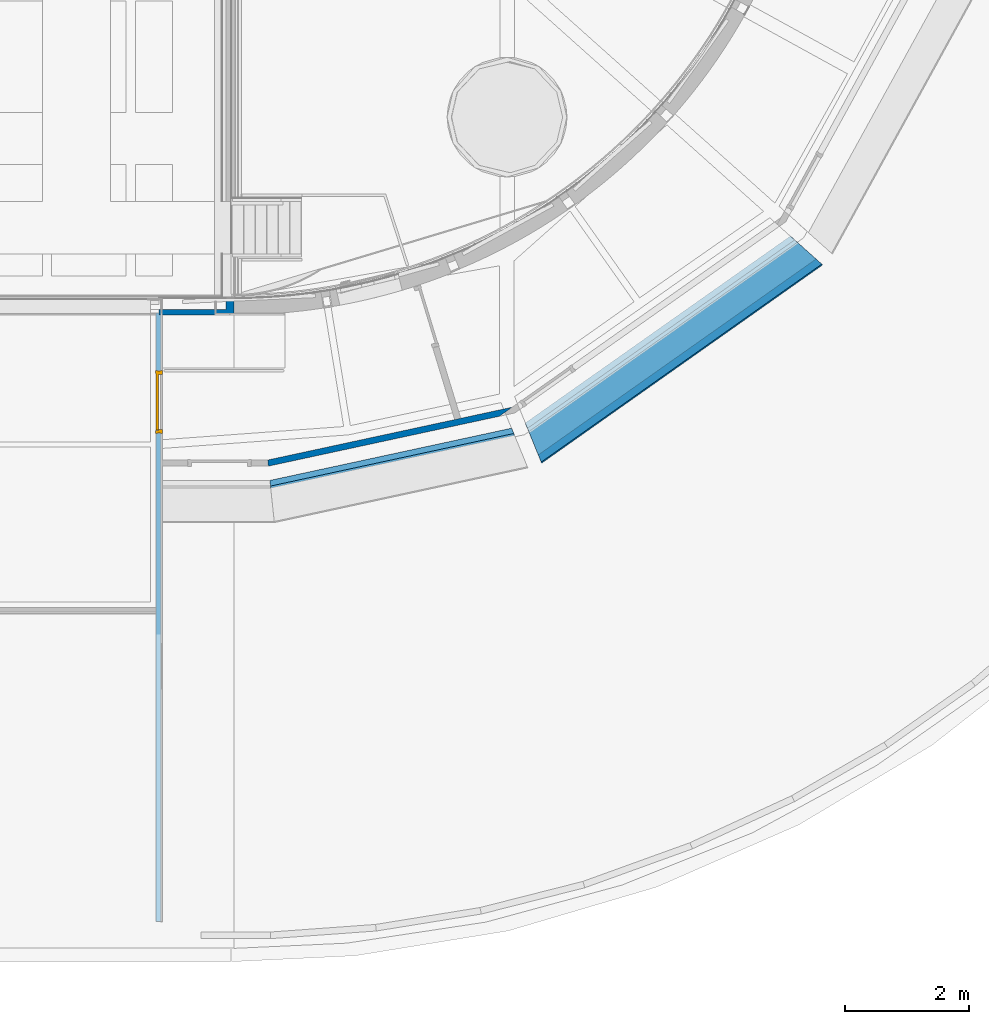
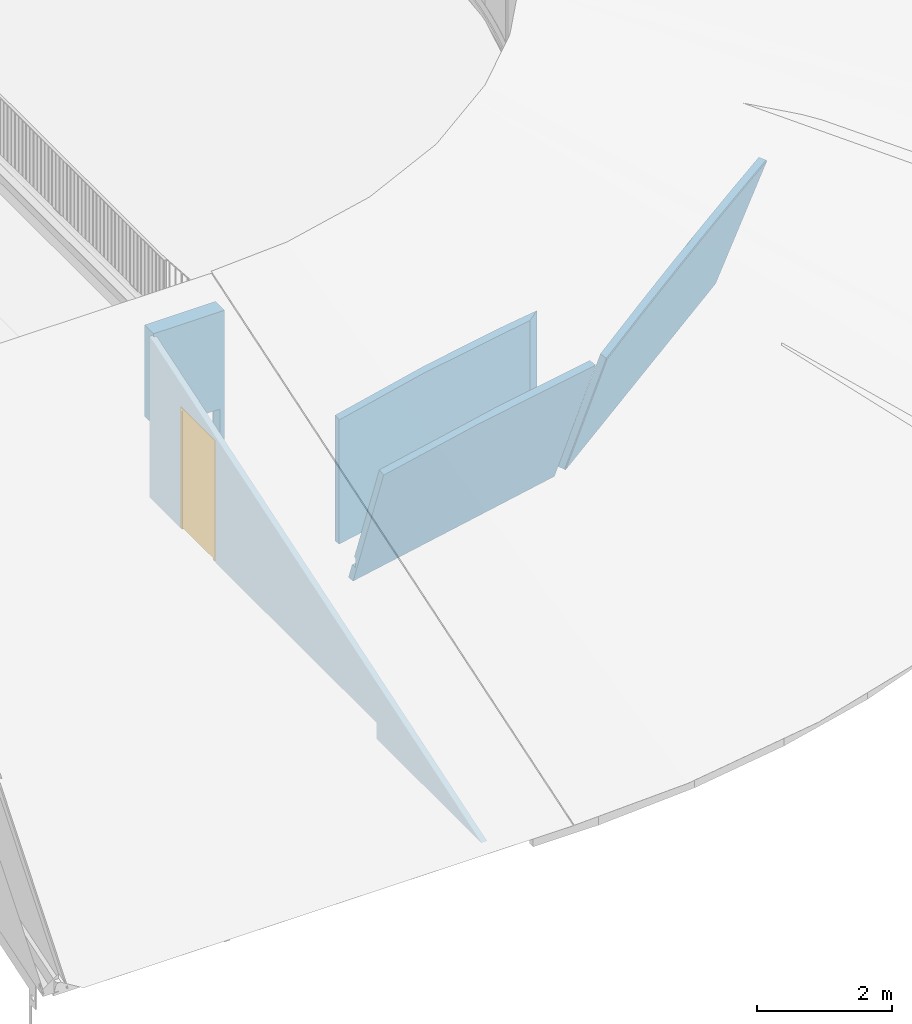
# One storey, part 49 of 66: 5 walls, 1 door, 2 openings, plus 1 element that does not belong to this part.
"""IFC2X3 building model written with IfcOpenShell, lengths in millimetres."""

import ifcopenshell
import ifcopenshell.guid

model = None  # the IFC model being written
_history = None  # IfcOwnerHistory: only IFC2X3 demands one
_inside = {}  # id of a spatial element -> (the spatial element, [elements in it])
_under = {}  # id of a project, library or spatial element -> (it, [spatial elements below it])
_declared = {}  # id of a project -> (the project, [libraries it declares])
_typed = {}  # id of a type object -> (the type object, [elements of that type])
_made_of = {}  # id of a material, layer set ... -> (it, [elements and type objects made of it])


def new_model(schema):
    """Start an empty IFC model of exactly this schema.

    Asked for "IFC4X3", IfcOpenShell would pick the latest addendum, in which some entities
    have other attributes; the version numbers below select the first issue.
    IFC2X3 requires an IfcOwnerHistory on every rooted entity: one is made here for all.
    """
    global model, _history
    if schema == "IFC4X3":
        model = ifcopenshell.file(schema_version=(4, 3, 0, 0))
    else:
        model = ifcopenshell.file(schema=schema)
    _inside.clear()
    _under.clear()
    _declared.clear()
    _typed.clear()
    _made_of.clear()
    _history = None
    if model.schema == "IFC2X3":
        org = make("IfcOrganization", Name="unknown")
        user = make(
            "IfcPersonAndOrganization",
            ThePerson=make("IfcPerson", FamilyName="unknown"),
            TheOrganization=org,
        )
        app = make(
            "IfcApplication",
            ApplicationDeveloper=org,
            Version="unknown",
            ApplicationFullName="unknown",
            ApplicationIdentifier="unknown",
        )
        _history = make(
            "IfcOwnerHistory",
            OwningUser=user,
            OwningApplication=app,
            ChangeAction="ADDED",
            CreationDate=0,
        )
    return model


def make(cls, **values):
    """One entity of the class cls with the attributes given. An attribute that is None is left unset."""
    return model.create_entity(
        cls, **{name: value for name, value in values.items() if value is not None}
    )


def entity(cls, *values):
    """Any entity or typed value of the class cls, its attributes in the order of the schema. None: left unset."""
    e = model.create_entity(cls)
    for i, value in enumerate(values):
        if value is not None:
            e[i] = value
    return e


def rooted(cls, **values):
    """An entity with a GlobalId (a new one), such as an element, a storey or a relation."""
    return make(cls, GlobalId=ifcopenshell.guid.new(), OwnerHistory=_history, **values)


def si_unit(unit_type, name, prefix=None):
    """IfcSIUnit, for example si_unit("LENGTHUNIT", "METRE", prefix="MILLI")."""
    return make("IfcSIUnit", UnitType=unit_type, Prefix=prefix, Name=name)


def converted_unit(unit_type, name, factor, base, dimensions=None, offset=None):
    """IfcConversionBasedUnit, such as the inch: factor (a typed value) times the base unit."""
    return make(
        "IfcConversionBasedUnit"
        if offset is None
        else "IfcConversionBasedUnitWithOffset",
        ConversionOffset=offset,
        Dimensions=None
        if dimensions is None
        else entity("IfcDimensionalExponents", *dimensions),
        UnitType=unit_type,
        Name=name,
        ConversionFactor=make(
            "IfcMeasureWithUnit", ValueComponent=factor, UnitComponent=base
        ),
    )


def derived_unit(unit_type, elements):
    """IfcDerivedUnit: a product of units, each with its exponent."""
    return make(
        "IfcDerivedUnit",
        Elements=[
            make("IfcDerivedUnitElement", Unit=unit, Exponent=power)
            for unit, power in elements
        ],
        UnitType=unit_type,
    )


def assignment(units):
    """IfcUnitAssignment: the units of a project."""
    return None if units is None else make("IfcUnitAssignment", Units=units)


def point(xyz):
    """IfcCartesianPoint."""
    return None if xyz is None else make("IfcCartesianPoint", Coordinates=xyz)


def direction(xyz):
    """IfcDirection."""
    return None if xyz is None else make("IfcDirection", DirectionRatios=xyz)


def frame(location, z_axis=None, x_axis=None):
    """IfcAxis2Placement3D, a coordinate frame: its origin and axes. An axis left out is left unset."""
    return make(
        "IfcAxis2Placement3D",
        Location=point(location),
        Axis=direction(z_axis),
        RefDirection=direction(x_axis),
    )


def frame_2d(location, x_axis=None):
    """IfcAxis2Placement2D, a coordinate frame in the plane: its origin and x axis."""
    return make(
        "IfcAxis2Placement2D", Location=point(location), RefDirection=direction(x_axis)
    )


def origin():
    """The frame at (0, 0, 0) with its axes left unset."""
    return frame((0.0, 0.0, 0.0))


def place(relative_to, where):
    """IfcLocalPlacement: puts the frame where relative to a parent placement (None: the world)."""
    return make(
        "IfcLocalPlacement", PlacementRelTo=relative_to, RelativePlacement=where
    )


def context(
    kind, dimensions, precision=None, world=None, true_north=None, identifier=None
):
    """IfcGeometricRepresentationContext, for example the 3D "Model" context."""
    return make(
        "IfcGeometricRepresentationContext",
        ContextIdentifier=identifier,
        ContextType=kind,
        CoordinateSpaceDimension=dimensions,
        Precision=precision,
        WorldCoordinateSystem=world,
        TrueNorth=true_north,
    )


def subcontext(parent, identifier, kind, view, scale=None):
    """IfcGeometricRepresentationSubContext, for example "Body" below "Model"."""
    return make(
        "IfcGeometricRepresentationSubContext",
        ContextIdentifier=identifier,
        ContextType=kind,
        ParentContext=parent,
        TargetScale=scale,
        TargetView=view,
    )


def project(units=None, contexts=None):
    """IfcProject with its units and contexts."""
    return rooted(
        "IfcProject",
        Name="project",
        RepresentationContexts=contexts,
        UnitsInContext=assignment(units),
    )


def spatial(cls, under=None, at=None, **own):
    """A site, building, storey or space (cls), placed at a placement, below another one or the project."""
    s = rooted(cls, ObjectPlacement=at, **own)
    if under is not None:
        _under.setdefault(under.id(), (under, []))[1].append(s)
    return s


def profile(cls, at=None, kind="AREA", **sizes):
    """A parametric profile (cls). Its sizes go by their IFC names, for example OverallWidth=200.0."""
    return make(cls, ProfileType=kind, Position=at, **sizes)


def rectangle(**sizes):
    """IfcRectangleProfileDef."""
    return profile("IfcRectangleProfileDef", **sizes)


def extrude(swept, where, along, depth):
    """IfcExtrudedAreaSolid: the profile swept, set in the frame where, extruded along a direction by depth."""
    return make(
        "IfcExtrudedAreaSolid",
        SweptArea=swept,
        Position=where,
        ExtrudedDirection=direction(along),
        Depth=depth,
    )


def clip(a, b, op="DIFFERENCE"):
    """IfcBooleanClippingResult: the solid a cut by the half space b."""
    return make(
        "IfcBooleanClippingResult", Operator=op, FirstOperand=a, SecondOperand=b
    )


def halfspace(plane, agree):
    """IfcHalfSpaceSolid: all space on one side of the plane z = 0 of the frame plane."""
    return make(
        "IfcHalfSpaceSolid",
        BaseSurface=make("IfcPlane", Position=plane),
        AgreementFlag=agree,
    )


def faces_of(points, faces, orient=None, outer=None):
    """IfcFace entities. A face is a list of loops; a loop is a list of indices into points, from 0.

    orient and outer hold one flag for each loop. By default every Orientation is true, the
    first loop of a face is its IfcFaceOuterBound and the others are IfcFaceBound.
    """
    made = []
    for i, loops in enumerate(faces):
        bounds = []
        for j, loop in enumerate(loops):
            is_outer = j == 0 if outer is None else outer[i][j]
            bounds.append(
                make(
                    "IfcFaceOuterBound" if is_outer else "IfcFaceBound",
                    Bound=make("IfcPolyLoop", Polygon=[points[k] for k in loop]),
                    Orientation=True if orient is None else orient[i][j],
                )
            )
        made.append(make("IfcFace", Bounds=bounds))
    return made


def faceted_brep(points, faces, orient=None, outer=None, voids=None):
    """IfcFacetedBrep: a solid bounded by flat faces; with voids (closed shells), ...WithVoids."""
    shared = [point(p) for p in points]
    hull = make("IfcClosedShell", CfsFaces=faces_of(shared, faces, orient, outer))
    if voids is None:
        return make("IfcFacetedBrep", Outer=hull)
    return make(
        "IfcFacetedBrepWithVoids",
        Outer=hull,
        Voids=[
            make(cls, CfsFaces=faces_of(shared, fs, o, b)) for cls, fs, o, b in voids
        ],
    )


def shape(context_of_items, identifier, shape_type, items):
    """IfcShapeRepresentation: the items that make up one representation, for example the "Body"."""
    return make(
        "IfcShapeRepresentation",
        ContextOfItems=context_of_items,
        RepresentationIdentifier=identifier,
        RepresentationType=shape_type,
        Items=items,
    )


def source(mapping_origin, context_of_items, identifier, shape_type, items):
    """IfcRepresentationMap: a shape defined once, which mapped items show again and again."""
    return make(
        "IfcRepresentationMap",
        MappingOrigin=mapping_origin,
        MappedRepresentation=shape(context_of_items, identifier, shape_type, items),
    )


def transform(
    local_origin,
    x_axis=None,
    y_axis=None,
    z_axis=None,
    scale=None,
    scale2=None,
    scale3=None,
    uniform=True,
):
    """IfcCartesianTransformationOperator3D, or its non-uniform kind. x_axis, y_axis, z_axis: its Axis1, 2, 3."""
    if uniform:
        return make(
            "IfcCartesianTransformationOperator3D",
            Axis1=direction(x_axis),
            Axis2=direction(y_axis),
            LocalOrigin=point(local_origin),
            Scale=scale,
            Axis3=direction(z_axis),
        )
    return make(
        "IfcCartesianTransformationOperator3DnonUniform",
        Axis1=direction(x_axis),
        Axis2=direction(y_axis),
        LocalOrigin=point(local_origin),
        Scale=scale,
        Axis3=direction(z_axis),
        Scale2=scale2,
        Scale3=scale3,
    )


def mapped(mapping_source, mapping_target):
    """IfcMappedItem: shows the shape of a source again, moved by a transform."""
    return make(
        "IfcMappedItem", MappingSource=mapping_source, MappingTarget=mapping_target
    )


def material(Name=None, Category=None):
    """IfcMaterial."""
    return make("IfcMaterial", Name=Name, Category=Category)


def material_list(materials):
    """IfcMaterialList."""
    return make("IfcMaterialList", Materials=materials)


def layer(
    of_material, thickness, ventilated=None, Name=None, Category=None, Priority=None
):
    """IfcMaterialLayer: one layer of a wall or slab, of a material (None: an air gap)."""
    return make(
        "IfcMaterialLayer",
        Material=of_material,
        LayerThickness=thickness,
        IsVentilated=ventilated,
        Name=Name,
        Category=Category,
        Priority=Priority,
    )


def layer_set(layers, Name=None):
    """IfcMaterialLayerSet."""
    return make("IfcMaterialLayerSet", MaterialLayers=layers, LayerSetName=Name)


def layer_usage(for_layer_set, set_direction, sense, offset, extent=None):
    """IfcMaterialLayerSetUsage: how a layer set lies in its element."""
    return make(
        "IfcMaterialLayerSetUsage",
        ForLayerSet=for_layer_set,
        LayerSetDirection=set_direction,
        DirectionSense=sense,
        OffsetFromReferenceLine=offset,
        ReferenceExtent=extent,
    )


def made_of(thing, what):
    """Note that an element or type object is made of a material, layer set ...; save() writes the relation."""
    if what is not None:
        _made_of.setdefault(what.id(), (what, []))[1].append(thing)
    return thing


def type_object(cls, material=None, **own):
    """A type object (cls), such as IfcWallType, which elements share."""
    return made_of(rooted(cls, **own), material)


def type_shapes(of_type, sources):
    """Give a type object the sources (RepresentationMaps) that its elements show as mapped items."""
    of_type.RepresentationMaps = sources


def element(
    cls,
    number,
    at=None,
    inside=None,
    cuts=None,
    type_object=None,
    material=None,
    context=None,
    identifier="Body",
    shape_type=None,
    held_by="IfcProductDefinitionShape",
    body=None,
    shapes=None,
    **own,
):
    """One element of the class cls, such as IfcWall. Its Tag is "e" and its number.

    at: its placement. inside: the storey or other place that contains it. cuts: it is an
    opening in that element (IfcRelVoidsElement). A single representation is given by context,
    identifier, shape_type and body (its items); several are given by shapes. held_by: the class
    of the entity that holds the representations. save() writes the other relations.
    """
    e = rooted(cls, Tag="e%d" % number, ObjectPlacement=at, **own)
    if body is not None:
        shapes = [shape(context, identifier, shape_type, body)]
    if shapes is not None:
        e.Representation = make(held_by, Representations=shapes)
    if inside is not None:
        _inside.setdefault(inside.id(), (inside, []))[1].append(e)
    if cuts is not None:
        rooted(
            "IfcRelVoidsElement", RelatingBuildingElement=cuts, RelatedOpeningElement=e
        )
    if type_object is not None:
        _typed.setdefault(type_object.id(), (type_object, []))[1].append(e)
    return made_of(e, material)


def fill(opening, filler):
    """IfcRelFillsElement: the door or window that sits in an opening."""
    return rooted(
        "IfcRelFillsElement",
        RelatingOpeningElement=opening,
        RelatedBuildingElement=filler,
    )


def aggregate(whole, parts):
    """IfcRelAggregates: a whole, such as a stair, and the parts it consists of."""
    return rooted("IfcRelAggregates", RelatingObject=whole, RelatedObjects=parts)


def save(model, path):
    """Write the relations noted so far, then the file.

    IfcRelAggregates (storeys below a building ...), IfcRelContainedInSpatialStructure (elements
    in a storey), IfcRelDefinesByType, IfcRelAssociatesMaterial and IfcRelDeclares: one each for
    every whole, place, type object, material and project.
    """
    for whole, parts in _under.values():
        aggregate(whole, parts)
    for where, things in _inside.values():
        rooted(
            "IfcRelContainedInSpatialStructure",
            RelatedElements=things,
            RelatingStructure=where,
        )
    for kind, things in _typed.values():
        rooted("IfcRelDefinesByType", RelatedObjects=things, RelatingType=kind)
    for what, things in _made_of.values():
        rooted("IfcRelAssociatesMaterial", RelatedObjects=things, RelatingMaterial=what)
    for by, libraries in _declared.values():
        rooted("IfcRelDeclares", RelatingContext=by, RelatedDefinitions=libraries)
    model.write(path)


model = new_model("IFC2X3")

# Units and contexts
model_context = context("Model", 3, precision=0.01, world=origin(), true_north=direction((6.12303176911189e-17, 1.0)))
body_context = subcontext(model_context, "Body", "Model", "MODEL_VIEW")
ifc_project = project(units=[si_unit("LENGTHUNIT", "METRE", prefix="MILLI"), si_unit("AREAUNIT", "SQUARE_METRE"), si_unit("VOLUMEUNIT", "CUBIC_METRE"), converted_unit("PLANEANGLEUNIT", "DEGREE", entity("IfcRatioMeasure", 0.0174532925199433), si_unit("PLANEANGLEUNIT", "RADIAN"), dimensions=[0, 0, 0, 0, 0, 0, 0]), si_unit("MASSUNIT", "GRAM", prefix="KILO"), derived_unit("MASSDENSITYUNIT", [(si_unit("MASSUNIT", "GRAM", prefix="KILO"), 1), (si_unit("LENGTHUNIT", "METRE"), -3)]), derived_unit("MOMENTOFINERTIAUNIT", [(si_unit("LENGTHUNIT", "METRE"), 4)]), si_unit("TIMEUNIT", "SECOND"), si_unit("FREQUENCYUNIT", "HERTZ"), si_unit("THERMODYNAMICTEMPERATUREUNIT", "DEGREE_CELSIUS"), derived_unit("THERMALTRANSMITTANCEUNIT", [(si_unit("MASSUNIT", "GRAM", prefix="KILO"), 1), (si_unit("THERMODYNAMICTEMPERATUREUNIT", "KELVIN"), -1), (si_unit("TIMEUNIT", "SECOND"), -3)]), derived_unit("VOLUMETRICFLOWRATEUNIT", [(si_unit("LENGTHUNIT", "METRE"), 3), (si_unit("TIMEUNIT", "SECOND"), -1)]), si_unit("ELECTRICCURRENTUNIT", "AMPERE"), si_unit("ELECTRICVOLTAGEUNIT", "VOLT"), si_unit("POWERUNIT", "WATT"), si_unit("FORCEUNIT", "NEWTON", prefix="KILO"), si_unit("ILLUMINANCEUNIT", "LUX"), si_unit("LUMINOUSFLUXUNIT", "LUMEN"), si_unit("LUMINOUSINTENSITYUNIT", "CANDELA"), derived_unit("USERDEFINED", [(si_unit("MASSUNIT", "GRAM", prefix="KILO"), -1), (si_unit("LENGTHUNIT", "METRE"), -2), (si_unit("TIMEUNIT", "SECOND"), 3), (si_unit("LUMINOUSFLUXUNIT", "LUMEN"), 1)]), derived_unit("LINEARVELOCITYUNIT", [(si_unit("LENGTHUNIT", "METRE"), 1), (si_unit("TIMEUNIT", "SECOND"), -1)]), si_unit("PRESSUREUNIT", "PASCAL"), derived_unit("USERDEFINED", [(si_unit("LENGTHUNIT", "METRE"), -2), (si_unit("MASSUNIT", "GRAM", prefix="KILO"), 1), (si_unit("TIMEUNIT", "SECOND"), -2)]), derived_unit("LINEARFORCEUNIT", [(si_unit("MASSUNIT", "GRAM", prefix="KILO"), 1), (si_unit("LENGTHUNIT", "METRE"), 1), (si_unit("TIMEUNIT", "SECOND"), -2), (si_unit("LENGTHUNIT", "METRE"), -1)]), derived_unit("PLANARFORCEUNIT", [(si_unit("MASSUNIT", "GRAM", prefix="KILO"), 1), (si_unit("LENGTHUNIT", "METRE"), 1), (si_unit("TIMEUNIT", "SECOND"), -2), (si_unit("LENGTHUNIT", "METRE"), -2)])], contexts=[model_context])

# Site, building, storey
site_placement = place(None, origin())
site = spatial("IfcSite", under=ifc_project, at=site_placement, Name="Default", CompositionType="ELEMENT")
building_placement = place(site_placement, origin())
building = spatial("IfcBuilding", under=site, at=building_placement, Name="-", CompositionType="ELEMENT")
storey_placement = place(building_placement, frame((0.0, 0.0, 3070.0)))
storey = spatial("IfcBuildingStorey", under=building, at=storey_placement, Name="01 eerste verdieping", CompositionType="ELEMENT", Elevation=3070.00000000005)

# Wall, openings, door
ifc_material_1 = material(Name="NLRS_f7_gipsplaat_gen")
ifc_layer_1 = layer(ifc_material_1, 12.5)
ifc_material_2 = material(Name="NLRS_m1_isolatie")
ifc_layer_2 = layer(ifc_material_2, 75.0)
ifc_layer_3 = layer(ifc_material_1, 12.5)
ifc_layer_set_1 = layer_set([ifc_layer_1, ifc_layer_2, ifc_layer_3], Name="Basic Wall:NLRS_21_WA_Metalstud 100mm")
ifc_layer_usage = layer_usage(ifc_layer_set_1, "AXIS2", "NEGATIVE", 50.0)
wall_type_1 = type_object("IfcWallType", Name="Basic Wall:NLRS_21_WA_Metalstud 100mm", PredefinedType="STANDARD", material=ifc_layer_set_1)
wall_1_placement = place(storey_placement, frame((49431.6203901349, 10179.532207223, -207.999811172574), z_axis=(0.0, 0.0, 1.0), x_axis=(0.0, -1.0, 0.0)))
wall_1 = element("IfcWallStandardCase", 1, at=wall_1_placement, inside=storey, type_object=wall_type_1, material=ifc_layer_usage, Name="Basic Wall:NLRS_21_WA_Metalstud 100mm", ObjectType="Basic Wall:NLRS_21_WA_Metalstud 100mm", context=body_context, shape_type="Clipping", body=[
    clip(extrude(rectangle(XDim=9837.42549744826, YDim=99.9999999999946, at=frame_2d((4918.71274872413, -8.5265128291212e-13), x_axis=(-1.0, 0.0))), origin(), (0.0, 0.0, 1.0), 3201.4676916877), halfspace(frame((0.0, -50.0, 3201.4676916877), z_axis=(0.3094623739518, 0.0, 0.950911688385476), x_axis=(0.0, 1.0, 0.0)), False)),
])
opening_1_placement = place(wall_1_placement, origin())
element("IfcOpeningElement", 2, at=opening_1_placement, cuts=wall_1, Name="Basic Wall:NLRS_21_WA_Metalstud 100mm", ObjectType="Opening", context=body_context, shape_type="SweptSolid", body=[
    extrude(rectangle(XDim=289.999811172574, YDim=6723.77109091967, at=frame_2d((-2.70006239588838e-13, 6.82121026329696e-13), x_axis=(1.0, 0.0))), frame((3361.88554545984, 50.0, 144.999905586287), z_axis=(0.0, -1.0, 0.0), x_axis=(0.0, 0.0, 1.0)), (0.0, 0.0, 1.0), 100.0),
])
opening_2_placement = place(wall_1_placement, frame((1948.44304372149, 50.0, 257.999811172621)))
opening_2 = element("IfcOpeningElement", 3, at=opening_2_placement, cuts=wall_1, Name="AL_32.i_Binnenkozijn-enkeledeur_Rechtsdraaiend:Merk a (2100mm hoog) brandwerend:1", ObjectType="Opening", context=body_context, shape_type="SweptSolid", body=[
    extrude(rectangle(XDim=2242.00000000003, YDim=1017.99999999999, at=frame_2d((1121.00000000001, 508.999999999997), x_axis=(1.0, 0.0))), frame((0.0, 0.0, 0.0), z_axis=(0.0, -1.0, 0.0), x_axis=(0.0, 0.0, 1.0)), (0.0, 0.0, 1.0), 100.0),
])
ifc_material_3 = material(Name="NLRS_i3_hout_Loofhout (hardhout) RAL 9002")
ifc_material_4 = material(Name="<Unnamed>")
ifc_material_5 = material(Name="31_Glas")
ifc_material_list = material_list([ifc_material_4, ifc_material_4, ifc_material_5, ifc_material_3])
door_style = type_object("IfcDoorStyle", Name="AL_32.i_Binnenkozijn-enkeledeur_Rechtsdraaiend:Merk a (2100mm hoog) brandwerend", ConstructionType="NOTDEFINED", OperationType="SINGLE_SWING_LEFT", ParameterTakesPrecedence=False, Sizeable=False, material=ifc_material_list)
shared_shape = source(origin(), body_context, "Body", "Brep", [
    faceted_brep([(52.0, 40.0, 75.0), (52.0, 40.0, 2190.0), (966.0, 40.0, 2190.0), (966.0, 40.0, 75.0), (966.0, 0.0, 75.0), (52.0, 0.0, 75.0), (966.0, 0.0, 2190.0), (52.0, 0.0, 2190.0)], [[[0, 1, 2, 3]], [[3, 4, 5, 0]], [[2, 6, 4, 3]], [[0, 5, 7, 1]], [[5, 4, 6, 7]], [[1, 7, 6, 2]]]),
    faceted_brep([(50.0, -7.0, 50.0), (0.0, -7.0, 50.0), (0.0, 23.0, 50.0), (9.0, 23.0, 50.0), (9.0, 77.0, 50.0), (0.0, 77.0, 50.0), (0.0, 107.0, 50.0), (67.0, 107.0, 50.0), (67.0, 42.0, 50.0), (50.0, 42.0, 50.0), (50.0, 42.0, 2192.0), (50.0, -7.0, 2192.0), (67.0, 42.0, 2175.0), (951.0, 42.0, 2175.0), (951.0, 42.0, 50.0), (968.0, 42.0, 50.0), (968.0, 42.0, 2192.0), (67.0, 107.0, 2175.0), (0.0, 107.0, 2242.0), (1018.0, 107.0, 2242.0), (1018.0, 107.0, 50.0), (951.0, 107.0, 50.0), (951.0, 107.0, 2175.0), (0.0, 77.0, 2242.0), (9.0, 77.0, 2233.0), (1009.0, 77.0, 2233.0), (1009.0, 77.0, 50.0), (1018.0, 77.0, 50.0), (1018.0, 77.0, 2242.0), (9.0, 23.0, 2233.0), (0.0, 23.0, 2242.0), (1018.0, 23.0, 2242.0), (1018.0, 23.0, 50.0), (1009.0, 23.0, 50.0), (1009.0, 23.0, 2233.0), (0.0, -7.0, 2242.0), (968.0, -7.0, 2192.0), (968.0, -7.0, 50.0), (1018.0, -7.0, 50.0), (1018.0, -7.0, 2242.0)], [[[0, 1, 2, 3, 4, 5, 6, 7, 8, 9]], [[9, 10, 11, 0]], [[8, 12, 13, 14, 15, 16, 10, 9]], [[7, 17, 12, 8]], [[6, 18, 19, 20, 21, 22, 17, 7]], [[5, 23, 18, 6]], [[4, 24, 25, 26, 27, 28, 23, 5]], [[3, 29, 24, 4]], [[2, 30, 31, 32, 33, 34, 29, 3]], [[1, 35, 30, 2]], [[0, 11, 36, 37, 38, 39, 35, 1]], [[37, 15, 14, 21, 20, 27, 26, 33, 32, 38]], [[39, 38, 32, 31]], [[34, 33, 26, 25]], [[28, 27, 20, 19]], [[22, 21, 14, 13]], [[16, 15, 37, 36]], [[23, 28, 19, 18]], [[17, 22, 13, 12]], [[10, 16, 36, 11]], [[29, 34, 25, 24]], [[35, 39, 31, 30]]]),
])
type_shapes(door_style, [shared_shape])
door_placement = place(opening_2_placement, frame((-1018.0, -100.0, 0.0)))
door = element("IfcDoor", 4, at=door_placement, inside=storey, type_object=door_style, material=ifc_material_3, Name="AL_32.i_Binnenkozijn-enkeledeur_Rechtsdraaiend:Merk a (2100mm hoog) brandwerend", ObjectType="AL_32.i_Binnenkozijn-enkeledeur_Rechtsdraaiend:Merk a (2100mm hoog) brandwerend", OverallHeight=2242.00000000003, OverallWidth=1017.99999999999, context=body_context, shape_type="MappedRepresentation", body=[
    mapped(shared_shape, transform((0.0, 0.0, 0.0), scale=1.0)),
])
fill(opening_2, door)

# Walls
wall_2_placement = place(storey_placement, frame((51187.8645784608, 7750.9263303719, 100.0), z_axis=(0.0, 0.0, 1.0), x_axis=(0.977456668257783, 0.211136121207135, 0.0)))
element("IfcWall", 5, at=wall_2_placement, inside=storey, type_object=wall_type_1, Name="Basic Wall:NLRS_21_WA_Metalstud 100mm", ObjectType="Basic Wall:NLRS_21_WA_Metalstud 100mm", context=body_context, shape_type="Brep", body=[
    faceted_brep([(0.0, -50.0, 0.0), (3816.94184704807, -50.0, 0.0), (3816.94184704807, -50.0, 2254.85761599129), (3286.76468555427, -50.0, 2266.2184489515), (2756.58752406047, -50.0, 2277.57928191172), (2226.41036256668, -50.0, 2288.94011487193), (1696.23320107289, -50.0, 2300.30094783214), (1292.61115139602, -50.0, 2287.81374362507), (888.98910171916, -50.0, 2275.326539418), (444.494550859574, -50.0, 2261.57482731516), (0.0, -50.0, 2247.82311521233), (4052.33722404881, 50.0, 0.0), (3201.32484930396, 50.0, 0.0), (3100.97127237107, 50.0, 0.0), (10.6771553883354, 50.0, 0.0), (10.6771553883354, 50.0, 2280.4403058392), (452.071575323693, 50.0, 2293.65978065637), (893.465995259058, 50.0, 2306.87925547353), (1334.86041519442, 50.0, 2320.0987302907), (1776.25483512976, 50.0, 2333.31820510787), (2438.61305375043, 50.0, 2324.80247301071), (3100.97127237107, 50.0, 2316.28674091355), (3151.1497779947, 50.0, 2314.68674492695), (3201.32484930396, 50.0, 2313.01776874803), (3626.93961801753, 50.0, 2296.09561831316), (4052.33722404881, 50.0, 2274.28821552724), (3934.6301815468, -0.00397374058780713, 2264.78363311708), (5.33858194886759, 3.98486830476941e-05, 2264.13184928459)], [[[0, 1, 2, 3, 4, 5, 6, 7, 8, 9, 10]], [[11, 12, 13, 14, 15, 16, 17, 18, 19, 20, 21, 22, 23, 24, 25]], [[0, 14, 13, 12, 11, 1]], [[23, 4, 3]], [[19, 5, 20]], [[23, 22, 4]], [[17, 16, 8]], [[26, 25, 24]], [[2, 26, 24]], [[27, 10, 9]], [[21, 4, 22]], [[5, 4, 20]], [[17, 7, 18]], [[15, 9, 16]], [[5, 19, 6]], [[18, 7, 6]], [[8, 7, 17]], [[9, 15, 27]], [[6, 19, 18]], [[4, 21, 20]], [[3, 2, 24]], [[8, 16, 9]], [[23, 3, 24]], [[26, 2, 1, 11, 25]], [[15, 14, 0, 10, 27]]]),
])
ifc_layer_4 = layer(ifc_material_1, 12.5)
ifc_layer_5 = layer(ifc_material_2, 89.0)
ifc_layer_6 = layer(ifc_material_1, 12.5)
ifc_layer_set_2 = layer_set([ifc_layer_4, ifc_layer_5, ifc_layer_6], Name="Basic Wall:NLRS_21_WA_HSB-wand_114mm")
wall_type_2 = type_object("IfcWallType", Name="Basic Wall:NLRS_21_WA_HSB-wand_114mm", PredefinedType="STANDARD", material=ifc_layer_set_2)
wall_3_placement = place(storey_placement, frame((51168.2787457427, 7276.22742939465, -370.0), z_axis=(0.0, 0.0, 1.0), x_axis=(0.977445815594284, 0.211186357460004, 0.0)))
element("IfcWall", 6, at=wall_3_placement, inside=storey, type_object=wall_type_2, Name="Basic Wall:NLRS_21_WA_HSB-wand_114mm", ObjectType="Basic Wall:NLRS_21_WA_HSB-wand_114mm", context=body_context, shape_type="Brep", body=[
    faceted_brep([(81.6929832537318, 60.2869408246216, 0.0), (4111.35054357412, 60.2869408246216, 0.0), (4246.02037522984, -703.80765297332, 2351.64135217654), (3766.80973915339, -707.232928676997, 2362.18326682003), (3066.53754270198, -712.238296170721, 2377.58820395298), (2476.79612643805, -716.45361776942, 2390.5616298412), (1887.05471017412, -720.668939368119, 2403.53505572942), (1415.86176157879, -716.66810546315, 2391.22175508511), (944.668812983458, -712.667271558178, 2378.90845444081), (472.334406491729, -708.656745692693, 2366.56532500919), (0.0, -704.646219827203, 2354.22219557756), (78.8097689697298, 33.2899316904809, 452.0), (11.5744451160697, -596.268773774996, 2389.58246349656), (597.073676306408, -600.242231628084, 2401.81150931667), (1182.57290749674, -604.215689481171, 2414.04055513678), (1768.07213868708, -608.18914733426, 2426.26960095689), (2353.5713698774, -612.162605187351, 2438.498646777), (3290.25545534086, -603.854362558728, 2412.92850521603), (3758.59749807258, -599.700241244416, 2400.14343443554), (4226.9395408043, -595.546119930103, 2387.35836365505), (4090.22432756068, 180.153634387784, 0.0), (94.4944517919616, 180.153634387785, 0.0), (84.7435759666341, 88.8511997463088, 281.0), (4103.7776301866, 88.8511997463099, 281.0), (4113.57016843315, 33.2899316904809, 452.0), (5.78722452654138, -650.457478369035, 2371.90244862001), (75.7988528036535, 5.09718455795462, 452.0), (75.7988528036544, 5.09718455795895, 281.0), (4118.53907148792, 5.09718455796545, 281.0), (4118.53907148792, 5.09718455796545, 452.0), (4236.47995793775, -649.676886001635, 2369.49986114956)], [[[0, 1, 2, 3, 4, 5, 6, 7, 8, 9, 10]], [[11, 12, 13, 14, 15, 16, 17, 18, 19, 20, 21, 22, 23, 24]], [[0, 21, 20, 1]], [[21, 0, 10, 25, 12, 11, 26, 27, 22]], [[24, 23, 28, 29]], [[29, 28, 27, 26]], [[26, 11, 24, 29]], [[28, 23, 22, 27]], [[17, 16, 5]], [[19, 3, 30]], [[18, 17, 4]], [[18, 4, 3]], [[3, 2, 30]], [[8, 14, 13]], [[25, 9, 12]], [[13, 12, 9]], [[4, 17, 5]], [[14, 7, 15]], [[25, 10, 9]], [[8, 13, 9]], [[6, 16, 15]], [[15, 7, 6]], [[14, 8, 7]], [[3, 19, 18]], [[16, 6, 5]], [[19, 30, 2, 1, 20]]]),
])
wall_4_placement = place(storey_placement, frame((55285.1924628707, 8135.09736262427, -370.0), z_axis=(0.0, 0.0, 1.0), x_axis=(0.817270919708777, 0.576253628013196, 0.0)))
element("IfcWall", 7, at=wall_4_placement, inside=storey, type_object=wall_type_2, Name="Basic Wall:NLRS_21_WA_HSB-wand_114mm", ObjectType="Basic Wall:NLRS_21_WA_HSB-wand_114mm", context=body_context, shape_type="Brep", body=[
    faceted_brep([(176.071774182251, 60.2869408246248, 0.0), (5473.78761844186, 60.286940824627, 0.0), (5649.85940550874, -702.363756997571, 2347.1974973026), (5168.60745502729, -706.831046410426, 2360.94640038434), (4865.09797620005, -709.648416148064, 2369.617372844), (4080.33654689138, -716.933075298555, 2392.0372483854), (3295.57511758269, -724.217734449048, 2414.4571239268), (2510.81368827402, -731.50239359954, 2436.8769994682), (1883.11026620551, -724.217741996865, 2414.45714715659), (1255.40684413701, -716.933090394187, 2392.03729484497), (473.873171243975, -707.863201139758, 2364.12304600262), (0.0, -702.363787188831, 2347.19759022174), (172.404769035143, 33.2899316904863, 452.0), (24.968212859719, -594.214563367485, 2383.26025394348), (655.572978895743, -604.387650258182, 2414.56979598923), (203.745177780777, 180.153634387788, 0.0), (185.232098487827, 88.8511997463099, 281.0), (1286.17774493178, -614.560737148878, 2445.87933803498), (1791.19255469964, -618.4793762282, 2457.93966901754), (2296.20736446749, -622.398015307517, 2470.0), (3353.65058183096, -622.398015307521, 2470.0), (5477.4940626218, 33.2899316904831, 452.0), (5446.11421172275, 180.153634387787, 0.0), (5464.65164979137, 88.8511997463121, 281.0), (3984.85998197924, -616.908010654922, 2453.10350306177), (5624.89118984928, -594.214533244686, 2383.26016123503), (4616.06938212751, -611.41800600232, 2436.20700612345), (5120.48028598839, -602.816269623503, 2409.73358367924), (2648.7111184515, -627.295562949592, 2470.0), (3001.21487243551, -632.19311059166, 2470.0), (5637.37529758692, -648.289144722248, 2365.2288325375), (12.4841065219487, -648.289174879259, 2365.22892535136), (5483.56255025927, 7.03529615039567, 452.0), (5483.56255025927, 7.03529615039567, 281.0), (165.889164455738, 5.06774764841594, 281.0), (165.889164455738, 5.06774764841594, 452.0)], [[[0, 1, 2, 3, 4, 5, 6, 7, 8, 9, 10, 11]], [[12, 13, 14]], [[12, 15, 13]], [[12, 16, 15]], [[12, 14, 17]], [[12, 17, 18]], [[12, 18, 19]], [[19, 20, 12]], [[20, 21, 12]], [[22, 15, 16]], [[22, 16, 23]], [[22, 23, 21]], [[21, 20, 24]], [[22, 21, 25]], [[21, 24, 26]], [[21, 26, 27]], [[21, 27, 25]], [[0, 15, 22, 1]], [[20, 19, 28, 29]], [[25, 30, 2, 1, 22]], [[0, 11, 31, 13, 15]], [[2, 30, 3]], [[5, 26, 24]], [[6, 24, 20]], [[5, 24, 6]], [[4, 3, 27]], [[3, 25, 27]], [[8, 19, 18, 17]], [[26, 4, 27]], [[29, 7, 6]], [[9, 14, 10]], [[17, 9, 8]], [[19, 7, 29, 28]], [[26, 5, 4]], [[19, 8, 7]], [[14, 9, 17]], [[31, 11, 10]], [[13, 31, 10]], [[29, 6, 20]], [[14, 13, 10]], [[25, 3, 30]], [[32, 33, 34, 35]], [[12, 35, 34, 16]], [[21, 23, 33, 32]], [[12, 21, 32, 35]], [[33, 23, 16, 34]]]),
])
ifc_material_6 = material(Name="NLRS_i4_hout_multiplex")
ifc_layer_7 = layer(ifc_material_6, 10.0)
ifc_layer_8 = layer(ifc_material_2, 235.0)
ifc_layer_9 = layer(ifc_material_6, 10.0)
ifc_layer_10 = layer(ifc_material_1, 12.5)
ifc_layer_set_3 = layer_set([ifc_layer_7, ifc_layer_8, ifc_layer_9, ifc_layer_10], Name="Basic Wall:NLRS_21_WA_HSB-wand_268mm")
wall_type_3 = type_object("IfcWallType", Name="Basic Wall:NLRS_21_WA_HSB-wand_268mm", PredefinedType="STANDARD", material=ifc_layer_set_3)
wall_5_placement = place(storey_placement, frame((49431.3144069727, 10280.8740954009, 100.0)))
element("IfcWall", 8, at=wall_5_placement, inside=storey, type_object=wall_type_3, Name="Basic Wall:NLRS_21_WA_HSB-wand_268mm", ObjectType="Basic Wall:NLRS_21_WA_HSB-wand_268mm", context=body_context, shape_type="Brep", body=[
    faceted_brep([(0.0, -133.75, 1182.0), (900.305983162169, -133.75, 1182.0), (1140.30598316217, -133.750000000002, 1182.0), (1140.30598316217, -133.750000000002, 0.0), (1215.24825503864, -133.75, 0.0), (1215.24825503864, -133.75, 2945.0), (0.0, -133.75, 2945.0), (1215.24825503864, 133.75, 2945.0), (1215.24825503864, 133.75, 0.0), (1167.80598316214, 133.75, 0.0), (1167.80598316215, 133.75, 1022.0), (1140.30598316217, 133.749999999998, 1022.0), (1140.30598316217, 133.749999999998, 1182.0), (1082.80598316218, 133.749999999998, 1182.0), (1082.80598316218, 133.749999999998, 1290.0), (0.0, 133.75, 1290.0), (0.0, 133.75, 2945.0), (1082.80598316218, -45.7499999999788, 1290.0), (0.0, -45.7499999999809, 1290.0), (1082.80598316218, -45.7499999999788, 1182.0), (0.0, -45.7499999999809, 1182.0), (1140.30598316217, -111.250000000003, 1182.0), (1140.30598316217, 82.7499999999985, 1022.0), (1140.30598316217, 82.7499999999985, 0.0), (1140.30598316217, -111.250000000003, 0.0), (1167.80598316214, 82.7500000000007, 0.0), (1167.80598316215, 82.7500000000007, 1022.0)], [[[0, 1, 2, 3, 4, 5, 6]], [[7, 8, 9, 10, 11, 12, 13, 14, 15, 16]], [[17, 18, 15, 14]], [[17, 19, 20, 18]], [[19, 17, 14, 13]], [[2, 1, 0, 20, 19, 13, 12, 21]], [[5, 4, 8, 7]], [[6, 5, 7, 16]], [[0, 6, 16, 15, 18, 20]], [[3, 2, 21, 12, 11, 22, 23, 24]], [[4, 3, 24, 23, 25, 9, 8]], [[25, 26, 10, 9]], [[26, 25, 23, 22]], [[10, 26, 22, 11]]]),
])
ifc_material_7 = material(Name="NLRS_Akoestisch paneel RAL 9010")
ifc_layer_11 = layer(ifc_material_7, 18.0)
ifc_layer_set_4 = layer_set([ifc_layer_11], Name="Basic Wall:NLRS_42_WA_Akoestische panelen")
wall_type_4 = type_object("IfcWallType", Name="Basic Wall:NLRS_42_WA_Akoestische panelen", PredefinedType="STANDARD", material=ifc_layer_set_4)
wall_6_placement = place(storey_placement, frame((55322.4842491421, 8074.39541726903, -370.0), z_axis=(0.0, 0.0, 1.0), x_axis=(0.81708896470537, 0.576511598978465, 0.0)))
element("IfcWall", 9, at=wall_6_placement, inside=storey, type_object=wall_type_4, Name="Basic Wall:NLRS_42_WA_Akoestische panelen", ObjectType="Basic Wall:NLRS_42_WA_Akoestische panelen", context=body_context, shape_type="Brep", body=[
    faceted_brep([(175.859143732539, 110.757127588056, 0.0), (5482.6881379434, 110.757127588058, 0.0), (5658.08170974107, -650.051580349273, 2341.52843535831), (5631.88541211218, -650.534484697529, 2343.01466212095), (5605.6891144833, -651.017389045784, 2344.5008888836), (5553.29651922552, -651.983197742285, 2347.47334240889), (5448.51132870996, -653.914815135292, 2353.41824945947), (5396.11873345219, -654.880623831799, 2356.39070298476), (5343.72613819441, -655.8464325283, 2359.36315651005), (5291.33354293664, -656.812241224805, 2362.33561003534), (5238.94094767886, -657.778049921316, 2365.30806356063), (5134.49559648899, -659.703402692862, 2371.2336900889), (5082.27292089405, -660.66607907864, 2374.19650335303), (5030.05024529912, -661.628755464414, 2377.15931661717), (4951.48636143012, -662.721850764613, 2380.52351802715), (4872.92247756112, -663.814946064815, 2383.88771943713), (4794.35859369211, -664.908041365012, 2387.25192084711), (4715.79470982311, -666.001136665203, 2390.61612225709), (4637.23082595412, -667.094231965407, 2393.98032366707), (4558.66694208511, -668.187327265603, 2397.34452507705), (4480.10305821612, -669.280422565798, 2400.70872648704), (4401.53917434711, -670.373517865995, 2404.07292789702), (4244.32389940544, -671.837433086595, 2408.57839567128), (4087.10862446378, -673.301348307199, 2413.08386344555), (3929.8933495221, -674.765263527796, 2417.58933121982), (3772.67807458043, -676.229178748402, 2422.09479899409), (3458.14114343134, -677.69305322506, 2426.60014137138), (3143.60421228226, -679.156927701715, 2431.10548374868), (2514.4583703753, -679.137096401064, 2431.04444928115), (2199.92240529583, -677.653457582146, 2426.47827851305), (1885.38644021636, -676.169818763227, 2421.91210774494), (1728.17253182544, -674.696125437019, 2417.37654605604), (1570.95862343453, -673.222432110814, 2412.84098436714), (1413.74471504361, -671.748738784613, 2408.30542267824), (1256.53080665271, -670.275045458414, 2403.76986098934), (1177.96776595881, -669.177142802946, 2400.3908640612), (1099.40472526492, -668.079240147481, 2397.01186713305), (1020.84168457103, -666.981337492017, 2393.63287020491), (942.278643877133, -665.883434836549, 2390.25387327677), (863.715603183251, -664.785532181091, 2386.87487634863), (785.152562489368, -663.687629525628, 2383.49587942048), (706.589521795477, -662.589726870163, 2380.11688249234), (628.026481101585, -661.4918242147, 2376.7378855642), (575.711610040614, -660.524304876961, 2373.76016722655), (523.39673897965, -659.556785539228, 2370.78244888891), (418.766996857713, -657.621746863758, 2364.82701221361), (366.421122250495, -656.653654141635, 2361.84752918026), (314.075247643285, -655.685561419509, 2358.86804614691), (261.729373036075, -654.717468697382, 2355.88856311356), (209.383498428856, -653.749375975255, 2352.90908008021), (104.691749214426, -651.813190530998, 2346.95011401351), (52.3458746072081, -650.845097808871, 2343.97063098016), (26.1729373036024, -650.361051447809, 2342.48088946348), (0.0, -649.87700508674, 2340.99114794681), (180.234922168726, 129.683447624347, 0.0), (3.94799951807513, -632.800934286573, 2346.6856295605), (82.3419109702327, -634.25068377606, 2351.14749969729), (160.735822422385, -635.700433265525, 2355.60936983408), (239.129733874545, -637.150182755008, 2360.07123997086), (317.523645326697, -638.599932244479, 2364.53311010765), (395.917556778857, -640.049681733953, 2368.99498024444), (474.311468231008, -641.499431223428, 2373.45685038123), (552.70537968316, -642.949180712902, 2377.91872051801), (631.099291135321, -644.39893020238, 2382.3805906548), (709.552866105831, -645.495242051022, 2385.75469158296), (788.006441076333, -646.59155389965, 2389.12879251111), (866.460016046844, -647.687865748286, 2392.50289343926), (944.913591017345, -648.784177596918, 2395.87699436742), (1023.36716598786, -649.880489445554, 2399.25109529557), (1101.82074095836, -650.976801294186, 2402.62519622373), (1180.27431592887, -652.073113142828, 2405.99929715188), (1258.72789089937, -653.169424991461, 2409.37339808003), (1415.72274454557, -654.640982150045, 2413.90238532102), (1572.71759819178, -656.112539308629, 2418.43137256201), (1729.71245183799, -657.584096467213, 2422.960359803), (1886.7073054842, -659.055653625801, 2427.48934704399), (2200.80485343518, -660.53714083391, 2432.04889583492), (2514.90240138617, -662.01862804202, 2436.60844462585), (3143.17154638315, -662.038431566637, 2436.66939360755), (3457.27009265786, -660.576680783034, 2432.17058728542), (3771.3686389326, -659.114929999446, 2427.67178096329), (3928.36470222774, -657.653138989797, 2423.17285083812), (4085.36076552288, -656.191347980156, 2418.67392071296), (4242.35682881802, -654.729556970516, 2414.17499058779), (4399.35289211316, -653.267765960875, 2409.67606046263), (4477.80740086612, -652.176253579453, 2406.3167307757), (4556.26190961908, -651.084741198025, 2402.95740108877), (4634.71641837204, -649.993228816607, 2399.59807140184), (4713.17092712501, -648.901716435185, 2396.23874171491), (4791.62543587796, -647.810204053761, 2392.87941202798), (4870.07994463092, -646.718691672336, 2389.52008234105), (4948.53445338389, -645.627179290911, 2386.16075265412), (5026.98896213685, -644.535666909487, 2382.80142296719), (5105.38346807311, -643.090616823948, 2378.35401610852), (5183.77797400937, -641.645566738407, 2373.90660924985), (5262.17247994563, -640.200516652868, 2369.45920239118), (5340.5669858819, -638.755466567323, 2365.01179553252), (5418.96149181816, -637.310416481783, 2360.56438867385), (5497.35599775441, -635.865366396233, 2356.11698181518), (5575.75050369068, -634.420316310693, 2351.66957495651), (5654.14500962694, -632.97526622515, 2347.22216809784), (5478.3249454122, 129.683447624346, 0.0), (1.97399975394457, -641.338969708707, 2343.83838882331), (5656.11335968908, -641.513423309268, 2344.37530179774)], [[[0, 1, 2, 3, 4, 5, 6, 7, 8, 9, 10, 11, 12, 13, 14, 15, 16, 17, 18, 19, 20, 21, 22, 23, 24, 25, 26, 27, 28, 29, 30, 31, 32, 33, 34, 35, 36, 37, 38, 39, 40, 41, 42, 43, 44, 45, 46, 47, 48, 49, 50, 51, 52, 53]], [[54, 55, 56, 57, 58, 59, 60, 61, 62, 63, 64, 65, 66, 67, 68, 69, 70, 71, 72, 73, 74, 75, 76, 77, 78, 79, 80, 81, 82, 83, 84, 85, 86, 87, 88, 89, 90, 91, 92, 93, 94, 95, 96, 97, 98, 99, 100, 101]], [[0, 54, 101, 1]], [[83, 22, 84]], [[24, 82, 81]], [[27, 26, 79]], [[55, 51, 56]], [[27, 78, 77]], [[80, 26, 25]], [[50, 56, 51]], [[32, 73, 72]], [[5, 99, 98]], [[92, 14, 13]], [[84, 22, 21]], [[92, 13, 93]], [[14, 91, 15]], [[10, 94, 11]], [[87, 19, 18]], [[27, 79, 78]], [[71, 34, 33]], [[21, 85, 84]], [[45, 60, 46]], [[40, 65, 64]], [[77, 28, 27]], [[76, 75, 29]], [[33, 72, 71]], [[74, 31, 30]], [[75, 30, 29]], [[28, 77, 76]], [[35, 34, 70]], [[32, 31, 73]], [[68, 36, 69]], [[63, 41, 64]], [[55, 102, 51]], [[97, 96, 8]], [[61, 44, 62]], [[23, 83, 82]], [[17, 89, 88]], [[57, 50, 49]], [[26, 80, 79]], [[25, 81, 80]], [[28, 76, 29]], [[65, 40, 39]], [[60, 59, 46]], [[3, 2, 103, 4]], [[83, 23, 22]], [[16, 90, 89]], [[6, 98, 97]], [[10, 95, 94]], [[88, 18, 17]], [[82, 24, 23]], [[69, 36, 35]], [[30, 75, 74]], [[32, 72, 33]], [[66, 39, 38]], [[62, 44, 43, 42]], [[49, 58, 57]], [[102, 53, 52, 51]], [[63, 42, 41]], [[9, 95, 10]], [[96, 9, 8]], [[90, 16, 15]], [[89, 17, 16]], [[15, 91, 90]], [[4, 100, 99]], [[11, 93, 13, 12]], [[86, 20, 19]], [[34, 71, 70]], [[42, 63, 62]], [[38, 67, 66]], [[40, 64, 41]], [[45, 61, 60]], [[59, 47, 46]], [[95, 9, 96]], [[100, 4, 103]], [[61, 45, 44]], [[37, 68, 67]], [[67, 38, 37]], [[14, 92, 91]], [[5, 98, 6]], [[93, 11, 94]], [[20, 86, 85]], [[81, 25, 24]], [[65, 39, 66]], [[58, 49, 48, 47]], [[73, 31, 74]], [[69, 35, 70]], [[85, 21, 20]], [[4, 99, 5]], [[6, 97, 8, 7]], [[19, 87, 86]], [[47, 59, 58]], [[50, 57, 56]], [[18, 88, 87]], [[36, 68, 37]], [[100, 103, 2, 1, 101]], [[0, 53, 102, 55, 54]]]),
])

save(model, "model.ifc")
